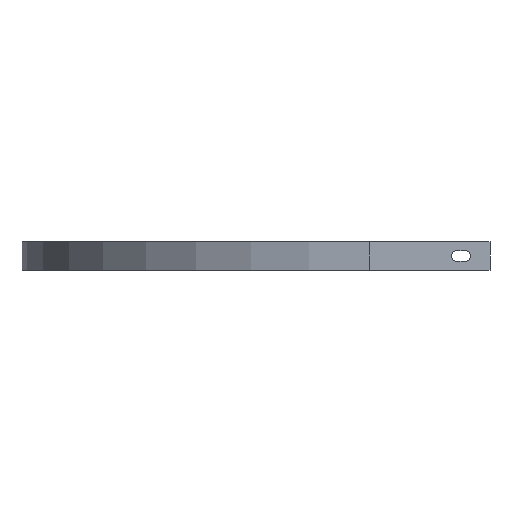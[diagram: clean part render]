
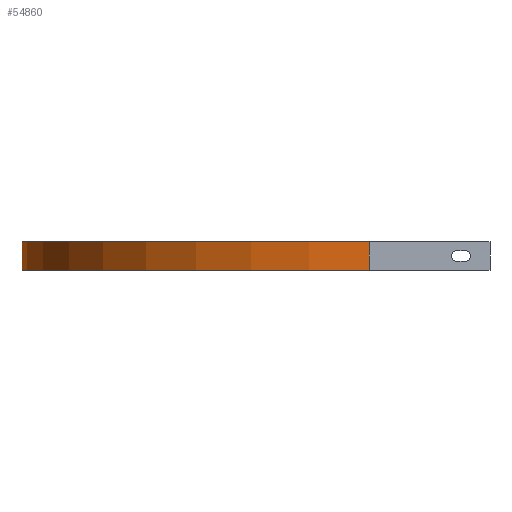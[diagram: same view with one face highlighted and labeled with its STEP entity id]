
A CAD part, left-side view. The second image highlights one B-rep face of the part: STEP entity #54860.
In plain terms, the highlighted cylindrical face has radius 360 mm (diameter 720 mm), a partial arc.
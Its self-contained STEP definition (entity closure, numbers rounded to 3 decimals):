
#51940=CARTESIAN_POINT('',(0.,0.,0.));
#51950=DIRECTION('',(0.,0.,1.));
#51960=DIRECTION('',(1.,0.,0.));
#51970=AXIS2_PLACEMENT_3D('',#51940,#51950,#51960);
#51980=CIRCLE('',#51970,360.);
#51990=CARTESIAN_POINT('',(0.,360.,0.));
#52000=VERTEX_POINT('',#51990);
#52010=CARTESIAN_POINT('',(-360.,0.,0.));
#52020=VERTEX_POINT('',#52010);
#52030=EDGE_CURVE('',#52000,#52020,#51980,.T.);
#53460=CARTESIAN_POINT('',(-360.,0.,-30.));
#53470=VERTEX_POINT('',#53460);
#53860=CARTESIAN_POINT('',(0.,360.,-30.));
#53870=VERTEX_POINT('',#53860);
#53900=CARTESIAN_POINT('',(0.,0.,-30.));
#53910=DIRECTION('',(0.,0.,1.));
#53920=DIRECTION('',(1.,0.,0.));
#53930=AXIS2_PLACEMENT_3D('',#53900,#53910,#53920);
#53940=CIRCLE('',#53930,360.);
#53950=EDGE_CURVE('',#53870,#53470,#53940,.T.);
#54230=CARTESIAN_POINT('',(0.,360.,0.));
#54240=DIRECTION('',(0.,0.,-1.));
#54250=VECTOR('',#54240,1.);
#54260=LINE('',#54230,#54250);
#54270=EDGE_CURVE('',#52000,#53870,#54260,.T.);
#54700=CARTESIAN_POINT('',(0.,0.,0.));
#54710=DIRECTION('',(0.,0.,1.));
#54720=DIRECTION('',(1.,0.,0.));
#54730=AXIS2_PLACEMENT_3D('',#54700,#54710,#54720);
#54740=CYLINDRICAL_SURFACE('',#54730,360.);
#54750=ORIENTED_EDGE('',*,*,#52030,.F.);
#54760=CARTESIAN_POINT('',(-360.,0.,0.));
#54770=DIRECTION('',(0.,0.,-1.));
#54780=VECTOR('',#54770,1.);
#54790=LINE('',#54760,#54780);
#54800=EDGE_CURVE('',#52020,#53470,#54790,.T.);
#54810=ORIENTED_EDGE('',*,*,#54800,.F.);
#54820=ORIENTED_EDGE('',*,*,#53950,.T.);
#54830=ORIENTED_EDGE('',*,*,#54270,.T.);
#54840=EDGE_LOOP('',(#54830,#54820,#54810,#54750));
#54850=FACE_OUTER_BOUND('',#54840,.T.);
#54860=ADVANCED_FACE('',(#54850),#54740,.T.);
